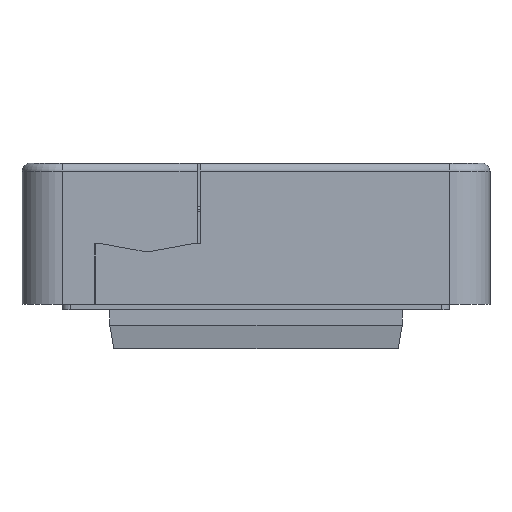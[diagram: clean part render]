
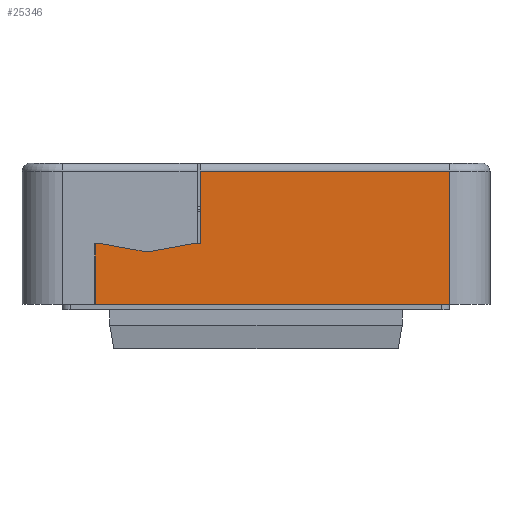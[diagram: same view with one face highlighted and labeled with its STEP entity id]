
A CAD part, left-side view. The second image highlights one B-rep face of the part: STEP entity #25346.
In plain terms, the highlighted planar face has unit normal (-1, 0, 0) as drawn and (1, 0, 0) by its records, which use the part's own axes.
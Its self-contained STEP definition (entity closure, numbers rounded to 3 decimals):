
#2998=FACE_OUTER_BOUND('',#4499,.T.);
#4499=EDGE_LOOP('',(#21759,#21760,#21761,#21762,#21763,#21764,#21765,#21766,
#21767));
#6613=LINE('',#41183,#9116);
#6649=LINE('',#41260,#9152);
#6932=LINE('',#42170,#9435);
#6937=LINE('',#42189,#9440);
#6939=LINE('',#42194,#9442);
#6940=LINE('',#42196,#9443);
#6941=LINE('',#42198,#9444);
#6942=LINE('',#42200,#9445);
#6943=LINE('',#42201,#9446);
#9116=VECTOR('',#31846,10.);
#9152=VECTOR('',#31902,10.);
#9435=VECTOR('',#32593,10.);
#9440=VECTOR('',#32612,10.);
#9442=VECTOR('',#32618,10.);
#9443=VECTOR('',#32619,10.);
#9444=VECTOR('',#32620,10.);
#9445=VECTOR('',#32621,10.);
#9446=VECTOR('',#32622,10.);
#11524=VERTEX_POINT('',#41180);
#11525=VERTEX_POINT('',#41182);
#11555=VERTEX_POINT('',#41257);
#11556=VERTEX_POINT('',#41259);
#11795=VERTEX_POINT('',#42165);
#11802=VERTEX_POINT('',#42188);
#11804=VERTEX_POINT('',#42195);
#11805=VERTEX_POINT('',#42197);
#11806=VERTEX_POINT('',#42199);
#14810=EDGE_CURVE('',#11525,#11524,#6613,.T.);
#14849=EDGE_CURVE('',#11556,#11555,#6649,.T.);
#15218=EDGE_CURVE('',#11556,#11795,#6932,.T.);
#15228=EDGE_CURVE('',#11795,#11802,#6937,.T.);
#15231=EDGE_CURVE('',#11802,#11524,#6939,.T.);
#15232=EDGE_CURVE('',#11555,#11804,#6940,.T.);
#15233=EDGE_CURVE('',#11804,#11805,#6941,.T.);
#15234=EDGE_CURVE('',#11805,#11806,#6942,.T.);
#15235=EDGE_CURVE('',#11806,#11525,#6943,.T.);
#21759=ORIENTED_EDGE('',*,*,#14810,.T.);
#21760=ORIENTED_EDGE('',*,*,#15231,.F.);
#21761=ORIENTED_EDGE('',*,*,#15228,.F.);
#21762=ORIENTED_EDGE('',*,*,#15218,.F.);
#21763=ORIENTED_EDGE('',*,*,#14849,.T.);
#21764=ORIENTED_EDGE('',*,*,#15232,.T.);
#21765=ORIENTED_EDGE('',*,*,#15233,.T.);
#21766=ORIENTED_EDGE('',*,*,#15234,.T.);
#21767=ORIENTED_EDGE('',*,*,#15235,.T.);
#24105=PLANE('',#27195);
#25346=ADVANCED_FACE('',(#2998),#24105,.T.);
#27195=AXIS2_PLACEMENT_3D('',#42193,#32616,#32617);
#31846=DIRECTION('',(0.,0.,-1.));
#31902=DIRECTION('',(0.,0.,-1.));
#32593=DIRECTION('',(0.,1.,0.));
#32612=DIRECTION('',(0.,0.,-1.));
#32616=DIRECTION('center_axis',(1.,0.,0.));
#32617=DIRECTION('ref_axis',(0.,0.,-1.));
#32618=DIRECTION('',(0.,-1.,0.));
#32619=DIRECTION('',(0.,-1.,0.));
#32620=DIRECTION('',(0.,-0.984,-0.179));
#32621=DIRECTION('',(0.,-0.984,0.179));
#32622=DIRECTION('',(0.,-1.,0.));
#41180=CARTESIAN_POINT('',(60.5,-19.9,0.));
#41182=CARTESIAN_POINT('',(60.5,-19.9,7.5));
#41183=CARTESIAN_POINT('',(60.5,-19.9,2.304));
#41257=CARTESIAN_POINT('',(60.5,-6.9,7.5));
#41259=CARTESIAN_POINT('',(60.5,-6.9,16.5));
#41260=CARTESIAN_POINT('',(60.5,-6.9,6.375));
#42165=CARTESIAN_POINT('',(60.5,24.,16.5));
#42170=CARTESIAN_POINT('',(60.5,14.5,16.5));
#42188=CARTESIAN_POINT('',(60.5,24.,0.));
#42189=CARTESIAN_POINT('',(60.5,24.,0.));
#42193=CARTESIAN_POINT('Origin',(60.5,29.,0.));
#42194=CARTESIAN_POINT('',(60.5,29.,0.));
#42195=CARTESIAN_POINT('',(60.5,-8.,7.5));
#42196=CARTESIAN_POINT('',(60.5,4.5,7.5));
#42197=CARTESIAN_POINT('',(60.5,-13.5,6.5));
#42198=CARTESIAN_POINT('',(60.5,6.498,10.136));
#42199=CARTESIAN_POINT('',(60.5,-19.,7.5));
#42200=CARTESIAN_POINT('',(60.5,4.892,3.156));
#42201=CARTESIAN_POINT('',(60.5,4.5,7.5));
